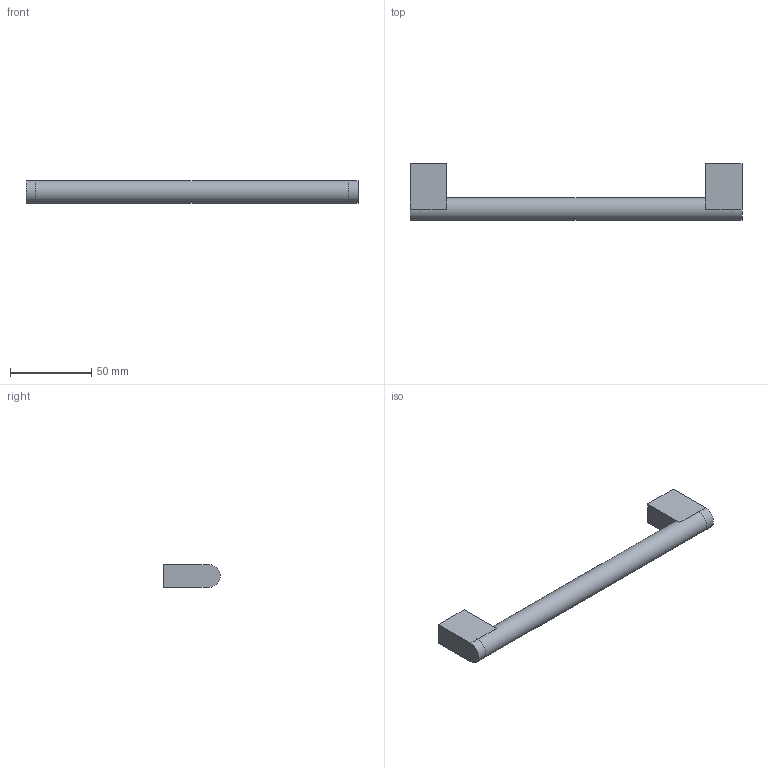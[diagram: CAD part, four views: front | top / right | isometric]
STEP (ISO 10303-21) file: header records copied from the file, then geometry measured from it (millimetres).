
FILE_DESCRIPTION( ( 'STEP AP214' ), ' ' );
FILE_NAME( 'C:/Users/bhog/Desktop/Handle/9070104/9070104.stp', '2018-11-20T10:20:19', ( '' ), ( '' ), ' ', 'PARTsolutions', ' ' );
FILE_SCHEMA( ( 'AUTOMOTIVE_DESIGN { 1 0 10303 214 1 1 1 1 }' ) );
Length unit declared in the file: millimetre
Products named in the file (1): _9070104
Bounding box: 204 x 35 x 14 mm (x, y, z)
Volume: 45118 mm3; surface area: 14355.5 mm2
Topology: 1 solids, 1 shells, 21 faces, 41 edges, 26 vertices
Faces by surface type: plane 14, cylinder 7
Full cylindrical faces by diameter (mm): 4 x2, 13.98 x1
Entity records: 706 total; most frequent: DIRECTION 96, CARTESIAN_POINT 86, ORIENTED_EDGE 76, EDGE_CURVE 38, AXIS2_PLACEMENT_3D 36, EDGE_LOOP 28, VERTEX_POINT 26, FACE_OUTER_BOUND 24
